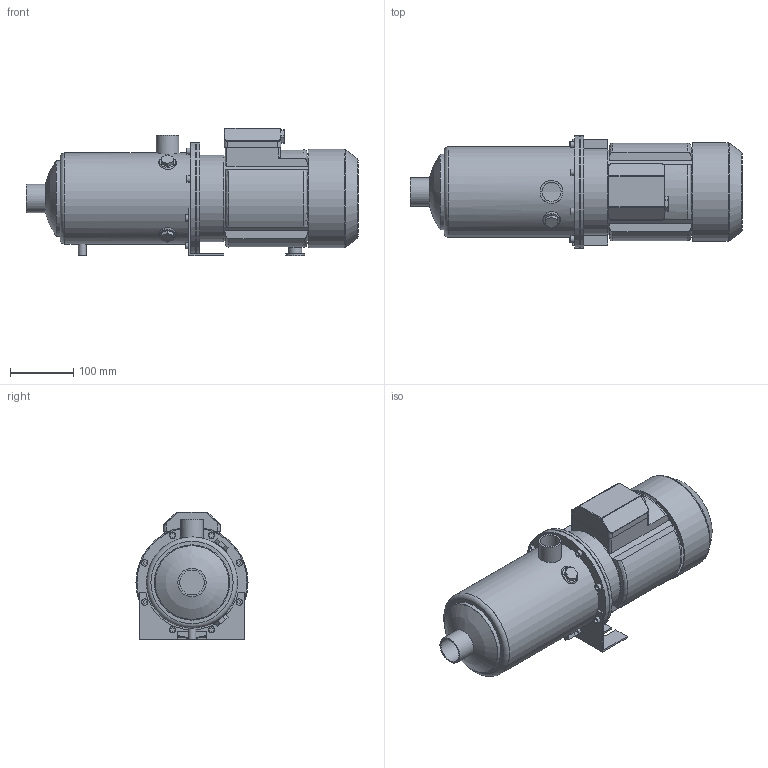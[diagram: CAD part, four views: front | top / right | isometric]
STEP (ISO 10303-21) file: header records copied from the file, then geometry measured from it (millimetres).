
FILE_DESCRIPTION(/* description */ ('Unknown'),/* implementation_level */ '2;1');
FILE_NAME(/* name */ 'MH 3 [8] T',/* time_stamp */ '2026-07-10T14:55:04+02:00',/* author */ ('Unknown'),/* organization */ ('Unknown'),/* preprocessor_version */ 'ST-DEVELOPER v20',/* originating_system */ 'Solid Edge',/* authorisation */ 'Unknown');
FILE_SCHEMA (('AUTOMOTIVE_DESIGN {1 0 10303 214 3 1 1}'));
Length unit declared in the file: millimetre
Products named in the file (10): MH 3 [8] T; Flangia motore Tonda M80; Corpo MH 3-5 [8]; Mot_Wendy_MEC80_11-15_T; carcassa MEC 80-Wendy; Copriventola MEC 80-Wendy; Basetta MEC 80 T-Wendy_new; Piedino MEC 80 int.90; Staffa 3-5-9 int.90
Assembly tree (8 placements, depth 3):
  MH 3 [8] T
    Flangia motore Tonda M80
    Corpo MH 3-5 [8]
    Mot_Wendy_MEC80_11-15_T
      carcassa MEC 80-Wendy
      Copriventola MEC 80-Wendy
      Basetta MEC 80 T-Wendy_new
    Piedino MEC 80 int.90
    Staffa 3-5-9 int.90
  (unnamed)
Bounding box: 523.1 x 176.5 x 200.5 mm (x, y, z)
Volume: 2096526.9 mm3; surface area: 631742.1 mm2
Topology: 8 solids, 8 shells, 278 faces, 651 edges, 432 vertices
Faces by surface type: plane 164, cylinder 75, torus 19, cone 14, bspline 4, sphere 2
Full cylindrical faces by diameter (mm): 7 x4, 10 x9, 12 x1, 13.5 x1, 17.5 x1, 21 x1, 30 x1, 30.291 x1, 36 x1, 38.952 x1, 44.5 x1, 116.1 x1, 118.5 x1, 125 x1, 130 x3, 134 x1, 136 x1, 141.1 x1, 143.5 x1, 153.5 x1, 155.5 x1, 173.5 x1, 174.1 x1, 176.5 x2
Entity records: 8922 total; most frequent: CARTESIAN_POINT 1612, DIRECTION 1268, ORIENTED_EDGE 1122, EDGE_CURVE 561, AXIS2_PLACEMENT_3D 464, VERTEX_POINT 400, EDGE_LOOP 389, FACE_BOUND 389
